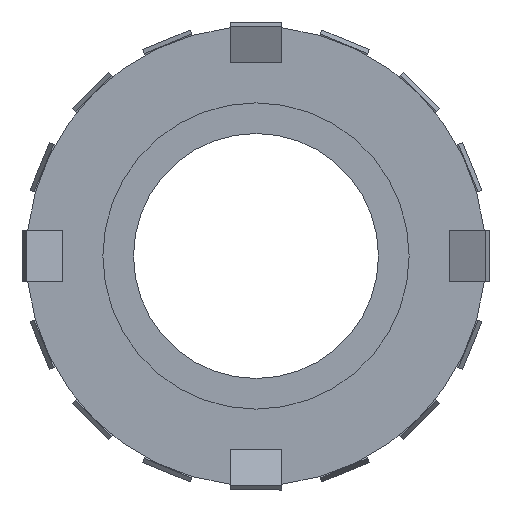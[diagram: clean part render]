
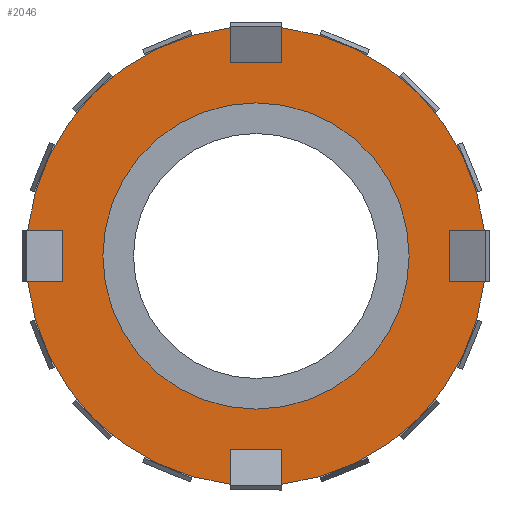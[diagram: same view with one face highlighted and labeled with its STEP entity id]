
A CAD part, left-side view. The second image highlights one B-rep face of the part: STEP entity #2046.
In plain terms, the highlighted planar face has unit normal (-1, 0, 0).
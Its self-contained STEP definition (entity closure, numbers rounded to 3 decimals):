
#1478 = VERTEX_POINT ( 'NONE', #6485 ) ;
#1716 = VERTEX_POINT ( 'NONE', #6793 ) ;
#1785 = EDGE_CURVE ( 'NONE', #1478, #1716, #6956, .T. ) ;
#2024 = VERTEX_POINT ( 'NONE', #3961 ) ;
#2028 = VERTEX_POINT ( 'NONE', #3977 ) ;
#2029 = EDGE_CURVE ( 'NONE', #2028, #2024, #3960, .T. ) ;
#2046 = ADVANCED_FACE ( 'NONE', ( #4278, #4277 ), #4276, .F. ) ;
#2047 = EDGE_LOOP ( 'NONE', ( #2175, #2178 ) ) ;
#2050 = EDGE_CURVE ( 'NONE', #1716, #1478, #4288, .T. ) ;
#2120 = VERTEX_POINT ( 'NONE', #4386 ) ;
#2123 = EDGE_CURVE ( 'NONE', #2125, #2120, #4382, .T. ) ;
#2125 = VERTEX_POINT ( 'NONE', #4383 ) ;
#2132 = VERTEX_POINT ( 'NONE', #4409 ) ;
#2133 = VERTEX_POINT ( 'NONE', #4408 ) ;
#2134 = ORIENTED_EDGE ( 'NONE', *, *, #2135, .F. ) ;
#2135 = EDGE_CURVE ( 'NONE', #2136, #2226, #4378, .T. ) ;
#2136 = VERTEX_POINT ( 'NONE', #4429 ) ;
#2137 = ORIENTED_EDGE ( 'NONE', *, *, #2138, .F. ) ;
#2138 = EDGE_CURVE ( 'NONE', #2269, #2136, #4428, .T. ) ;
#2171 = EDGE_CURVE ( 'NONE', #2269, #2195, #4499, .T. ) ;
#2174 = VERTEX_POINT ( 'NONE', #4489 ) ;
#2175 = ORIENTED_EDGE ( 'NONE', *, *, #2050, .F. ) ;
#2178 = ORIENTED_EDGE ( 'NONE', *, *, #1785, .F. ) ;
#2179 = EDGE_LOOP ( 'NONE', ( #2180, #2184, #2260, #2261, #2134, #2137, #2247, #2250, #2254, #2257, #2236, #2237, #2240, #2215, #2217, #2218 ) ) ;
#2180 = ORIENTED_EDGE ( 'NONE', *, *, #2181, .F. ) ;
#2181 = EDGE_CURVE ( 'NONE', #2182, #2183, #4490, .T. ) ;
#2182 = VERTEX_POINT ( 'NONE', #4514 ) ;
#2183 = VERTEX_POINT ( 'NONE', #4513 ) ;
#2184 = ORIENTED_EDGE ( 'NONE', *, *, #2259, .F. ) ;
#2195 = VERTEX_POINT ( 'NONE', #4533 ) ;
#2215 = ORIENTED_EDGE ( 'NONE', *, *, #2216, .F. ) ;
#2216 = EDGE_CURVE ( 'NONE', #2125, #2174, #4560, .T. ) ;
#2217 = ORIENTED_EDGE ( 'NONE', *, *, #2123, .T. ) ;
#2218 = ORIENTED_EDGE ( 'NONE', *, *, #2219, .F. ) ;
#2219 = EDGE_CURVE ( 'NONE', #2183, #2120, #4561, .T. ) ;
#2225 = EDGE_CURVE ( 'NONE', #2226, #2024, #4287, .T. ) ;
#2226 = VERTEX_POINT ( 'NONE', #4657 ) ;
#2233 = EDGE_CURVE ( 'NONE', #2132, #2256, #4676, .T. ) ;
#2236 = ORIENTED_EDGE ( 'NONE', *, *, #2258, .T. ) ;
#2237 = ORIENTED_EDGE ( 'NONE', *, *, #2239, .F. ) ;
#2238 = VERTEX_POINT ( 'NONE', #4630 ) ;
#2239 = EDGE_CURVE ( 'NONE', #2238, #2133, #4629, .T. ) ;
#2240 = ORIENTED_EDGE ( 'NONE', *, *, #2241, .F. ) ;
#2241 = EDGE_CURVE ( 'NONE', #2174, #2238, #4644, .T. ) ;
#2247 = ORIENTED_EDGE ( 'NONE', *, *, #2171, .T. ) ;
#2250 = ORIENTED_EDGE ( 'NONE', *, *, #2252, .F. ) ;
#2252 = EDGE_CURVE ( 'NONE', #2253, #2195, #4589, .T. ) ;
#2253 = VERTEX_POINT ( 'NONE', #4585 ) ;
#2254 = ORIENTED_EDGE ( 'NONE', *, *, #2255, .F. ) ;
#2255 = EDGE_CURVE ( 'NONE', #2256, #2253, #4584, .T. ) ;
#2256 = VERTEX_POINT ( 'NONE', #4580 ) ;
#2257 = ORIENTED_EDGE ( 'NONE', *, *, #2233, .F. ) ;
#2258 = EDGE_CURVE ( 'NONE', #2132, #2133, #4615, .T. ) ;
#2259 = EDGE_CURVE ( 'NONE', #2028, #2182, #4616, .T. ) ;
#2260 = ORIENTED_EDGE ( 'NONE', *, *, #2029, .T. ) ;
#2261 = ORIENTED_EDGE ( 'NONE', *, *, #2225, .F. ) ;
#2269 = VERTEX_POINT ( 'NONE', #4662 ) ;
#3954 = CARTESIAN_POINT ( 'NONE',  ( 3., 0., 0. ) ) ;
#3956 = DIRECTION ( 'NONE',  ( 0., 0., 1. ) ) ;
#3958 = DIRECTION ( 'NONE',  ( -1., 0., 0. ) ) ;
#3959 = CARTESIAN_POINT ( 'NONE',  ( 3., 0., 0. ) ) ;
#3960 = CIRCLE ( 'NONE', #3979, 22.5 ) ;
#3961 = CARTESIAN_POINT ( 'NONE',  ( 3., -22.361, -2.5 ) ) ;
#3968 = DIRECTION ( 'NONE',  ( 0., 0., 1. ) ) ;
#3969 = DIRECTION ( 'NONE',  ( -1., 0., 0. ) ) ;
#3970 = AXIS2_PLACEMENT_3D ( 'NONE', #3959, #3958, #3956 ) ;
#3977 = CARTESIAN_POINT ( 'NONE',  ( 3., -2.5, -22.361 ) ) ;
#3979 = AXIS2_PLACEMENT_3D ( 'NONE', #3954, #3969, #3968 ) ;
#3981 = VECTOR ( 'NONE', #4084, 1000. ) ;
#3982 = CARTESIAN_POINT ( 'NONE',  ( 3., -19., 2.5 ) ) ;
#4084 = DIRECTION ( 'NONE',  ( 0., 0., -1. ) ) ;
#4270 = CARTESIAN_POINT ( 'NONE',  ( 3., 22.5, 0. ) ) ;
#4271 = AXIS2_PLACEMENT_3D ( 'NONE', #4270, #4291, #4290 ) ;
#4272 = CARTESIAN_POINT ( 'NONE',  ( 3., -22.361, -2.5 ) ) ;
#4276 = PLANE ( 'NONE',  #4271 ) ;
#4277 = FACE_OUTER_BOUND ( 'NONE', #2179, .T. ) ;
#4278 = FACE_BOUND ( 'NONE', #2047, .T. ) ;
#4287 = LINE ( 'NONE', #4272, #4364 ) ;
#4288 = CIRCLE ( 'NONE', #3970, 15. ) ;
#4290 = DIRECTION ( 'NONE',  ( 0., 0., -1. ) ) ;
#4291 = DIRECTION ( 'NONE',  ( 1., 0., 0. ) ) ;
#4364 = VECTOR ( 'NONE', #4373, 1000. ) ;
#4373 = DIRECTION ( 'NONE',  ( 0., -1., 0. ) ) ;
#4378 = LINE ( 'NONE', #3982, #3981 ) ;
#4380 = CARTESIAN_POINT ( 'NONE',  ( 3., 0., 0. ) ) ;
#4381 = AXIS2_PLACEMENT_3D ( 'NONE', #4380, #4411, #4410 ) ;
#4382 = CIRCLE ( 'NONE', #4381, 22.5 ) ;
#4383 = CARTESIAN_POINT ( 'NONE',  ( 3., 22.361, -2.5 ) ) ;
#4386 = CARTESIAN_POINT ( 'NONE',  ( 3., 2.5, -22.361 ) ) ;
#4408 = CARTESIAN_POINT ( 'NONE',  ( 3., 22.361, 2.5 ) ) ;
#4409 = CARTESIAN_POINT ( 'NONE',  ( 3., 2.5, 22.361 ) ) ;
#4410 = DIRECTION ( 'NONE',  ( 0., 0., 1. ) ) ;
#4411 = DIRECTION ( 'NONE',  ( -1., 0., 0. ) ) ;
#4421 = DIRECTION ( 'NONE',  ( 0., 1., 0. ) ) ;
#4422 = VECTOR ( 'NONE', #4421, 1000. ) ;
#4428 = LINE ( 'NONE', #4431, #4422 ) ;
#4429 = CARTESIAN_POINT ( 'NONE',  ( 3., -19., 2.5 ) ) ;
#4431 = CARTESIAN_POINT ( 'NONE',  ( 3., -22.361, 2.5 ) ) ;
#4489 = CARTESIAN_POINT ( 'NONE',  ( 3., 19., -2.5 ) ) ;
#4490 = LINE ( 'NONE', #4502, #4501 ) ;
#4495 = DIRECTION ( 'NONE',  ( 0., 0., 1. ) ) ;
#4496 = DIRECTION ( 'NONE',  ( -1., 0., 0. ) ) ;
#4497 = CARTESIAN_POINT ( 'NONE',  ( 3., 0., 0. ) ) ;
#4498 = AXIS2_PLACEMENT_3D ( 'NONE', #4497, #4496, #4495 ) ;
#4499 = CIRCLE ( 'NONE', #4498, 22.5 ) ;
#4500 = DIRECTION ( 'NONE',  ( 0., 1., 0. ) ) ;
#4501 = VECTOR ( 'NONE', #4500, 1000. ) ;
#4502 = CARTESIAN_POINT ( 'NONE',  ( 3., -2.5, -19. ) ) ;
#4513 = CARTESIAN_POINT ( 'NONE',  ( 3., 2.5, -19. ) ) ;
#4514 = CARTESIAN_POINT ( 'NONE',  ( 3., -2.5, -19. ) ) ;
#4533 = CARTESIAN_POINT ( 'NONE',  ( 3., -2.5, 22.361 ) ) ;
#4558 = DIRECTION ( 'NONE',  ( 0., -1., 0. ) ) ;
#4559 = VECTOR ( 'NONE', #4558, 1000. ) ;
#4560 = LINE ( 'NONE', #4571, #4559 ) ;
#4561 = LINE ( 'NONE', #4568, #4567 ) ;
#4566 = DIRECTION ( 'NONE',  ( 0., 0., -1. ) ) ;
#4567 = VECTOR ( 'NONE', #4566, 1000. ) ;
#4568 = CARTESIAN_POINT ( 'NONE',  ( 3., 2.5, -22.361 ) ) ;
#4571 = CARTESIAN_POINT ( 'NONE',  ( 3., 22.361, -2.5 ) ) ;
#4580 = CARTESIAN_POINT ( 'NONE',  ( 3., 2.5, 19. ) ) ;
#4581 = DIRECTION ( 'NONE',  ( 0., -1., 0. ) ) ;
#4582 = VECTOR ( 'NONE', #4581, 1000. ) ;
#4583 = CARTESIAN_POINT ( 'NONE',  ( 3., 2.5, 19. ) ) ;
#4584 = LINE ( 'NONE', #4583, #4582 ) ;
#4585 = CARTESIAN_POINT ( 'NONE',  ( 3., -2.5, 19. ) ) ;
#4586 = DIRECTION ( 'NONE',  ( 0., 0., 1. ) ) ;
#4587 = VECTOR ( 'NONE', #4586, 1000. ) ;
#4588 = CARTESIAN_POINT ( 'NONE',  ( 3., -2.5, 22.361 ) ) ;
#4589 = LINE ( 'NONE', #4588, #4587 ) ;
#4608 = DIRECTION ( 'NONE',  ( 0., 0., 1. ) ) ;
#4609 = VECTOR ( 'NONE', #4608, 1000. ) ;
#4610 = CARTESIAN_POINT ( 'NONE',  ( 3., -2.5, -22.361 ) ) ;
#4611 = DIRECTION ( 'NONE',  ( 0., 0., 1. ) ) ;
#4612 = DIRECTION ( 'NONE',  ( -1., 0., 0. ) ) ;
#4613 = CARTESIAN_POINT ( 'NONE',  ( 3., 0., 0. ) ) ;
#4614 = AXIS2_PLACEMENT_3D ( 'NONE', #4613, #4612, #4611 ) ;
#4615 = CIRCLE ( 'NONE', #4614, 22.5 ) ;
#4616 = LINE ( 'NONE', #4610, #4609 ) ;
#4626 = DIRECTION ( 'NONE',  ( 0., 1., 0. ) ) ;
#4627 = VECTOR ( 'NONE', #4626, 1000. ) ;
#4628 = CARTESIAN_POINT ( 'NONE',  ( 3., 22.361, 2.5 ) ) ;
#4629 = LINE ( 'NONE', #4628, #4627 ) ;
#4630 = CARTESIAN_POINT ( 'NONE',  ( 3., 19., 2.5 ) ) ;
#4641 = DIRECTION ( 'NONE',  ( 0., 0., 1. ) ) ;
#4642 = VECTOR ( 'NONE', #4641, 1000. ) ;
#4643 = CARTESIAN_POINT ( 'NONE',  ( 3., 19., -2.5 ) ) ;
#4644 = LINE ( 'NONE', #4643, #4642 ) ;
#4649 = VECTOR ( 'NONE', #4668, 1000. ) ;
#4654 = CARTESIAN_POINT ( 'NONE',  ( 3., 2.5, 22.361 ) ) ;
#4657 = CARTESIAN_POINT ( 'NONE',  ( 3., -19., -2.5 ) ) ;
#4662 = CARTESIAN_POINT ( 'NONE',  ( 3., -22.361, 2.5 ) ) ;
#4668 = DIRECTION ( 'NONE',  ( 0., 0., -1. ) ) ;
#4676 = LINE ( 'NONE', #4654, #4649 ) ;
#6485 = CARTESIAN_POINT ( 'NONE',  ( 3., 0., -15. ) ) ;
#6793 = CARTESIAN_POINT ( 'NONE',  ( 3., 0., 15. ) ) ;
#6936 = DIRECTION ( 'NONE',  ( 0., 0., 1. ) ) ;
#6953 = DIRECTION ( 'NONE',  ( -1., 0., 0. ) ) ;
#6954 = CARTESIAN_POINT ( 'NONE',  ( 3., 0., 0. ) ) ;
#6955 = AXIS2_PLACEMENT_3D ( 'NONE', #6954, #6953, #6936 ) ;
#6956 = CIRCLE ( 'NONE', #6955, 15. ) ;
